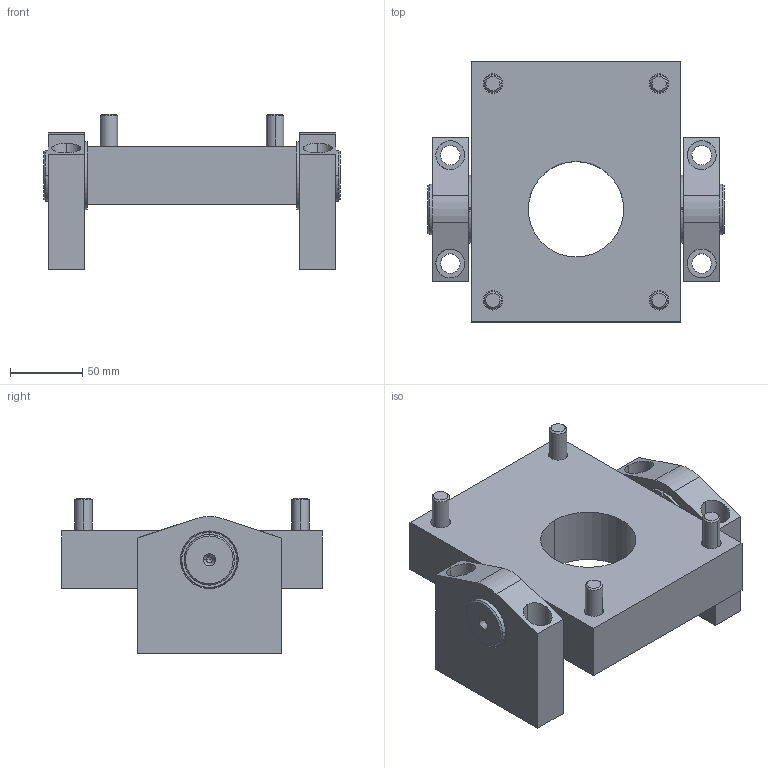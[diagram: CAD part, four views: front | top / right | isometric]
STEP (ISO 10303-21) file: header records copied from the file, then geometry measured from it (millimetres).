
FILE_DESCRIPTION (( 'STEP AP203' ), '1' );
FILE_NAME ('MJ4-KP(Z2)-SFK.STEP', '2024-01-16T10:13:19', ( '' ), ( '' ), 'SwSTEP 2.0', 'SolidWorks 2022', '' );
FILE_SCHEMA (( 'CONFIG_CONTROL_DESIGN' ));
Length unit declared in the file: millimetre
Products named in the file (1): MJ4-KP(Z2)-SFK
Bounding box: 205 x 180 x 107.6 mm (x, y, z)
Volume: 1287824.8 mm3; surface area: 191095.8 mm2
Topology: 9 solids, 9 shells, 220 faces, 530 edges, 336 vertices
Faces by surface type: plane 80, cylinder 76, cone 40, torus 24
Entity records: 6593 total; most frequent: CARTESIAN_POINT 1321, DIRECTION 1152, ORIENTED_EDGE 1036, EDGE_CURVE 518, AXIS2_PLACEMENT_3D 461, VERTEX_POINT 336, EDGE_LOOP 262, CIRCLE 240
